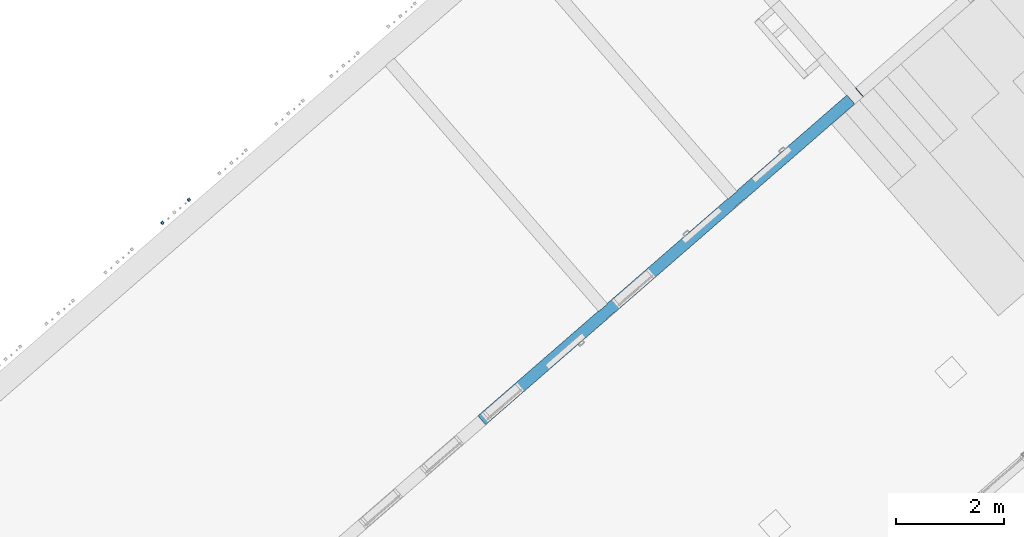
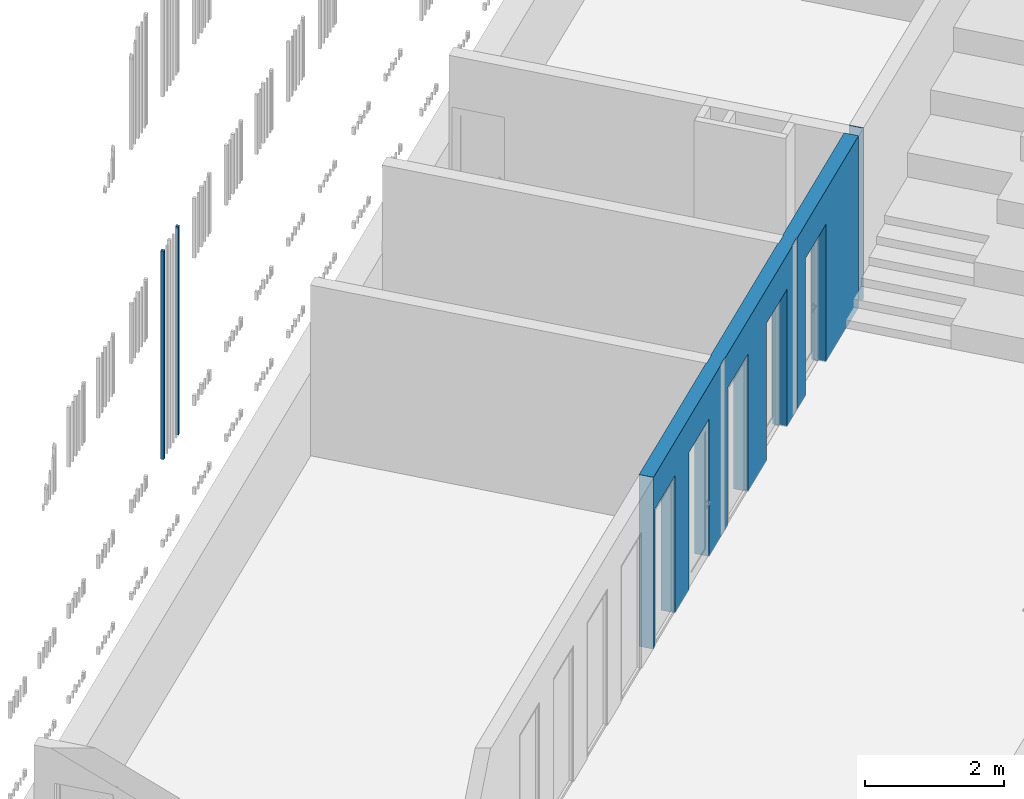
# One storey, part 48 of 124: 3 walls.
"""IFC2X3 building model written with IfcOpenShell, lengths in millimetres."""

from ifc_helpers import new_model, entity, si_unit, converted_unit, derived_unit, money_unit, direction, frame, origin_with_axes, place, context, subcontext, project, spatial, faceted_brep, material, material_list, type_object, element, save


model = new_model("IFC2X3")

# Units and contexts
model_context = context("Model", 3, precision=1e-05, world=origin_with_axes(), true_north=direction((0.0, 1.0)))
body_context = subcontext(model_context, "Body", "Model", "MODEL_VIEW")
ifc_project = project(units=[si_unit("LENGTHUNIT", "METRE", prefix="MILLI"), si_unit("AREAUNIT", "SQUARE_METRE"), si_unit("VOLUMEUNIT", "CUBIC_METRE"), converted_unit("PLANEANGLEUNIT", "DEGREE", entity("IfcPlaneAngleMeasure", 0.0174532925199), si_unit("PLANEANGLEUNIT", "RADIAN"), dimensions=[0, 0, 0, 0, 0, 0, 0]), si_unit("SOLIDANGLEUNIT", "STERADIAN"), money_unit("EUR"), converted_unit("TIMEUNIT", "Year", entity("IfcTimeMeasure", 31556926.0), si_unit("TIMEUNIT", "SECOND"), dimensions=[0, 0, 1, 0, 0, 0, 0]), si_unit("MASSUNIT", "GRAM", prefix="KILO"), si_unit("THERMODYNAMICTEMPERATUREUNIT", "DEGREE_CELSIUS"), si_unit("LUMINOUSINTENSITYUNIT", "LUMEN"), si_unit("ENERGYUNIT", "JOULE", prefix="MEGA"), derived_unit("THERMALCONDUCTANCEUNIT", [(si_unit("POWERUNIT", "WATT"), 1), (si_unit("LENGTHUNIT", "METRE"), -1), (si_unit("THERMODYNAMICTEMPERATUREUNIT", "KELVIN"), -1)]), derived_unit("SPECIFICHEATCAPACITYUNIT", [(si_unit("ENERGYUNIT", "JOULE"), 1), (si_unit("MASSUNIT", "GRAM", prefix="KILO"), -1), (si_unit("THERMODYNAMICTEMPERATUREUNIT", "KELVIN"), -1)]), derived_unit("MASSDENSITYUNIT", [(si_unit("MASSUNIT", "GRAM", prefix="KILO"), 1), (si_unit("VOLUMEUNIT", "CUBIC_METRE"), -1)])], contexts=[model_context])

# Site, building, storey
site_placement = place(None, origin_with_axes())
site = spatial("IfcSite", under=ifc_project, at=site_placement, Name="Site", CompositionType="ELEMENT")
building_placement = place(site_placement, origin_with_axes())
building = spatial("IfcBuilding", under=site, at=building_placement, Name="Building", CompositionType="ELEMENT")
storey_placement = place(building_placement, frame((0.0, 0.0, -1615.0), z_axis=(0.0, 0.0, 1.0), x_axis=(1.0, 0.0, 0.0)))
storey = spatial("IfcBuildingStorey", under=building, at=storey_placement, Name="0  korrus", CompositionType="ELEMENT", Elevation=-1615.0)

# Walls
ifc_material_1 = material(Name="Krohv - Lubjakivi")
ifc_material_2 = material(Name="Raudbetoon - Konstruktsioon")
ifc_material_list = material_list([ifc_material_1, ifc_material_1, ifc_material_1, ifc_material_1, ifc_material_2, ifc_material_2, ifc_material_1, ifc_material_1, ifc_material_1, ifc_material_1])
wall_type_1 = type_object("IfcWallType", Name="SS-10", PredefinedType="NOTDEFINED")
wall_placement = place(storey_placement, frame((156600.150721, 97211.825244, -20.0), z_axis=(0.0, 0.0, 1.0), x_axis=(-0.754709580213, -0.656059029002, 0.0)))
element("IfcWall", 1, at=wall_placement, inside=storey, type_object=wall_type_1, material=ifc_material_list, Name="SS-10", context=body_context, shape_type="Brep", body=[
    faceted_brep([(3.09205099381, -9.99999999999, 3020.0), (3.09209474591, 0.0, 3020.0), (0.0, 0.0, 3020.0), (0.0, -10.0, 3020.0), (3.09205099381, -9.99999999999, 0.0), (3.09209474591, 0.0, 0.0), (0.0, 0.0, 0.0), (0.0, -10.0, 0.0)], [[[0, 1, 2, 3]], [[1, 0, 4, 5]], [[1, 5, 6, 2]], [[7, 3, 2, 6]], [[4, 0, 3, 7]], [[5, 4, 7, 6]]]),
    faceted_brep([(7720.00011706, 0.0, 20.0), (7720.00011706, 0.0, 2420.0), (6820.00011706, 0.0, 2420.0), (6820.00011706, 0.0, 20.0), (6820.00011706, 0.0, 0.0), (6313.09222722, 0.0, 0.0), (6313.09222722, 0.0, 3020.0), (9279.99998528, 0.0, 3020.0), (9279.99998528, 0.0, 0.0), (9220.00011706, 0.0, 0.0), (9220.00011706, 0.0, 20.0), (9220.00011706, 0.0, 2420.0), (8320.00011706, 0.0, 2420.0), (8320.00011706, 0.0, 20.0), (8320.00011706, 0.0, 0.0), (7720.00011706, 0.0, 0.0), (7720.00011706, -10.0, 20.0), (7720.00011706, -9.99999999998, 2420.0), (6820.00011706, -9.99999999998, 2420.0), (6820.00011706, -10.0, 20.0), (6820.00011706, -10.0, 0.0), (6313.09222701, -9.99999999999, 0.0), (6313.09222701, -9.99999999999, 3020.0), (9279.99998528, -10.0, 3020.0), (9279.99998528, -10.0, 0.0), (9220.00011706, -9.99999999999, 0.0), (9220.00011706, -9.99999999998, 20.0), (9220.00011706, -9.99999999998, 2420.0), (8320.00011706, -9.99999999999, 2420.0), (8320.00011706, -9.99999999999, 20.0), (8320.00011706, -9.99999999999, 0.0), (7720.00011706, -9.99999999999, 0.0)], [[[0, 1, 2, 3, 4, 5, 6, 7, 8, 9, 10, 11, 12, 13, 14, 15]], [[1, 0, 16, 17]], [[2, 1, 17, 18]], [[3, 2, 18, 19]], [[3, 19, 20, 4]], [[21, 5, 4, 20]], [[6, 5, 21, 22]], [[7, 6, 22, 23]], [[24, 8, 7, 23]], [[8, 24, 25, 9]], [[10, 9, 25, 26]], [[10, 26, 27, 11]], [[11, 27, 28, 12]], [[12, 28, 29, 13]], [[29, 30, 14, 13]], [[31, 15, 14, 30]], [[16, 0, 15, 31]], [[17, 16, 31, 30, 29, 28, 27, 26, 25, 24, 23, 22, 21, 20, 19, 18]]]),
    faceted_brep([(4279.74517624, 0.0, 20.0), (4279.74517624, 0.0, 2420.0), (3379.74517624, 0.0, 2420.0), (3379.74517624, 0.0, 20.0), (3379.74517624, 0.0, 0.0), (3143.09208998, 0.0, 0.0), (3143.09208998, 0.0, 3020.0), (6113.09222722, 0.0, 3020.0), (6113.09222722, 0.0, 0.0), (6000.00011248, 0.0, 0.0), (6000.00011248, 0.0, 20.0), (6000.00011248, 0.0, 2420.0), (5100.00011248, 0.0, 2420.0), (5100.00011248, 0.0, 20.0), (5100.00011248, 0.0, 0.0), (4279.74517624, 0.0, 0.0), (4279.74517624, -9.99999999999, 20.0), (4279.74517624, -9.99999999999, 2420.0), (3379.74517624, -9.99999999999, 2420.0), (3379.74517624, -9.99999999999, 20.0), (3379.74517624, -9.99999999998, 0.0), (3143.09208999, -9.99999999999, 0.0), (3143.09208999, -9.99999999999, 3020.0), (6113.09222701, -10.0, 3020.0), (6113.09222701, -10.0, 0.0), (6000.00011248, -10.0, 0.0), (6000.00011248, -10.0, 20.0), (6000.00011248, -10.0, 2420.0), (5100.00011248, -10.0, 2420.0), (5100.00011248, -10.0, 20.0), (5100.00011248, -9.99999999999, 0.0), (4279.74517624, -9.99999999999, 0.0)], [[[0, 1, 2, 3, 4, 5, 6, 7, 8, 9, 10, 11, 12, 13, 14, 15]], [[1, 0, 16, 17]], [[2, 1, 17, 18]], [[3, 2, 18, 19]], [[3, 19, 20, 4]], [[21, 5, 4, 20]], [[6, 5, 21, 22]], [[6, 22, 23, 7]], [[24, 8, 7, 23]], [[8, 24, 25, 9]], [[10, 9, 25, 26]], [[10, 26, 27, 11]], [[11, 27, 28, 12]], [[12, 28, 29, 13]], [[29, 30, 14, 13]], [[31, 15, 14, 30]], [[16, 0, 15, 31]], [[17, 16, 31, 30, 29, 28, 27, 26, 25, 24, 23, 22, 21, 20, 19, 18]]]),
    faceted_brep([(2560.09818998, 0.0, 20.0), (2560.09818998, 0.0, 2420.0), (1660.09818998, 0.0, 2420.0), (1660.09818998, 0.0, 20.0), (1660.09818998, 0.0, 0.0), (223.092094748, 0.0, 0.0), (223.092094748, 0.0, 3020.0), (2923.09208998, 0.0, 3020.0), (2923.09208998, 0.0, 0.0), (2560.09818998, 0.0, 0.0), (2560.09818998, -9.99999999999, 20.0), (2560.09818998, -9.99999999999, 2420.0), (1660.09818998, -9.99999999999, 2420.0), (1660.09818998, -9.99999999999, 20.0), (1660.09818998, -10.0, 0.0), (223.092050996, -9.99999999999, 0.0), (223.092050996, -9.99999999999, 3020.0), (2923.09208999, -10.0, 3020.0), (2923.09208999, -10.0, 0.0), (2560.09818998, -9.99999999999, 0.0)], [[[0, 1, 2, 3, 4, 5, 6, 7, 8, 9]], [[1, 0, 10, 11]], [[2, 1, 11, 12]], [[3, 2, 12, 13]], [[3, 13, 14, 4]], [[14, 15, 5, 4]], [[16, 6, 5, 15]], [[7, 6, 16, 17]], [[17, 18, 8, 7]], [[9, 8, 18, 19]], [[10, 0, 9, 19]], [[11, 10, 19, 18, 17, 16, 15, 14, 13, 12]]]),
    faceted_brep([(13.0911759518, -210.0, 3020.0), (13.0920509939, -9.99999999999, 3020.0), (0.0, -10.0, 3020.0), (0.0, -210.0, 3020.0), (13.0911759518, -210.0, 0.0), (13.0920509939, -9.99999999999, 0.0), (0.0, -10.0, 0.0), (0.0, -210.0, 0.0)], [[[0, 1, 2, 3]], [[1, 0, 4, 5]], [[1, 5, 6, 2]], [[7, 3, 2, 6]], [[4, 0, 3, 7]], [[5, 4, 7, 6]]]),
    faceted_brep([(7720.00011706, -10.0, 20.0), (7720.00011706, -10.0, 2420.0), (6820.00011706, -10.0, 2420.0), (6820.00011706, -10.0, 20.0), (6820.00011706, -9.99999999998, 0.0), (6000.00011248, -10.0, 0.0), (6000.00011248, -10.0, 20.0), (6000.00011248, -9.99999999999, 2420.0), (5100.00011248, -9.99999999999, 2420.0), (5100.00011248, -9.99999999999, 20.0), (5100.00011248, -9.99999999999, 0.0), (4279.74517624, -9.99999999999, 0.0), (4279.74517624, -9.99999999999, 20.0), (4279.74517624, -9.99999999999, 2420.0), (3379.74517624, -9.99999999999, 2420.0), (3379.74517624, -9.99999999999, 20.0), (3379.74517624, -9.99999999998, 0.0), (2560.09818998, -9.99999999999, 0.0), (2560.09818998, -9.99999999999, 20.0), (2560.09818998, -9.99999999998, 2420.0), (1660.09818998, -9.99999999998, 2420.0), (1660.09818998, -9.99999999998, 20.0), (1660.09818998, -9.99999999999, 0.0), (213.092050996, -9.99999999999, 0.0), (213.092050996, -9.99999999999, 3020.0), (9279.99998528, -10.0, 3020.0), (9279.99998528, -10.0, 0.0), (9220.00011706, -9.99999999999, 0.0), (9220.00011706, -9.99999999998, 20.0), (9220.00011706, -10.0, 2420.0), (8320.00011706, -10.0, 2420.0), (8320.00011706, -9.99999999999, 20.0), (8320.00011706, -9.99999999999, 0.0), (7720.00011706, -9.99999999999, 0.0), (7720.00011706, -110.0, 20.0), (7720.00011706, -210.0, 20.0), (7720.00011706, -210.0, 2420.0), (6820.00011706, -210.0, 2420.0), (6820.00011706, -110.0, 20.0), (6820.00011706, -210.0, 20.0), (6820.00011706, -210.0, 0.0), (6000.00011248, -210.0, 0.0), (6000.00011248, -210.0, 20.0), (6000.00011248, -210.0, 2420.0), (5100.00011248, -210.0, 2420.0), (5100.00011248, -210.0, 20.0), (5100.00011248, -210.0, 0.0), (4279.74517624, -210.0, 0.0), (4279.74517624, -210.0, 20.0), (4279.74517624, -210.0, 2420.0), (3379.74517624, -210.0, 2420.0), (3379.74517624, -210.0, 20.0), (3379.74517624, -210.0, 0.0), (2560.09818998, -210.0, 0.0), (2560.09818998, -210.0, 20.0), (2560.09818998, -210.0, 2420.0), (1660.09818998, -210.0, 2420.0), (1660.09818998, -210.0, 20.0), (1660.09818998, -210.0, 0.0), (213.091175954, -210.0, 0.0), (213.091175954, -210.0, 3020.0), (9279.99998528, -210.0, 3020.0), (9279.99998528, -210.0, 0.0), (9220.00011706, -210.0, 0.0), (9220.00011706, -210.0, 20.0), (9220.00011706, -210.0, 2420.0), (8320.00011706, -210.0, 2420.0), (8320.00011706, -210.0, 20.0), (8320.00011706, -210.0, 0.0), (7720.00011706, -210.0, 0.0)], [[[0, 1, 2, 3, 4, 5, 6, 7, 8, 9, 10, 11, 12, 13, 14, 15, 16, 17, 18, 19, 20, 21, 22, 23, 24, 25, 26, 27, 28, 29, 30, 31, 32, 33]], [[1, 0, 34, 35, 36]], [[2, 1, 36, 37]], [[38, 3, 2, 37, 39]], [[3, 38, 39, 40, 4]], [[5, 4, 40, 41]], [[5, 41, 42, 6]], [[42, 43, 7, 6]], [[43, 44, 8, 7]], [[44, 45, 9, 8]], [[46, 10, 9, 45]], [[11, 10, 46, 47]], [[11, 47, 48, 12]], [[13, 12, 48, 49]], [[50, 14, 13, 49]], [[15, 14, 50, 51]], [[16, 15, 51, 52]], [[17, 16, 52, 53]], [[54, 18, 17, 53]], [[19, 18, 54, 55]], [[20, 19, 55, 56]], [[21, 20, 56, 57]], [[21, 57, 58, 22]], [[23, 22, 58, 59]], [[23, 59, 60, 24]], [[24, 60, 61, 25]], [[26, 25, 61, 62]], [[62, 63, 27, 26]], [[28, 27, 63, 64]], [[28, 64, 65, 29]], [[29, 65, 66, 30]], [[30, 66, 67, 31]], [[67, 68, 32, 31]], [[33, 32, 68, 69]], [[34, 0, 33, 69, 35]], [[40, 39, 37, 36, 35, 69, 68, 67, 66, 65, 64, 63, 62, 61, 60, 59, 58, 57, 56, 55, 54, 53, 52, 51, 50, 49, 48, 47, 46, 45, 44, 43, 42, 41]]]),
    faceted_brep([(3.09113219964, -220.0, 3020.0), (3.09117595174, -210.0, 3020.0), (0.0, -210.0, 3020.0), (0.0, -220.0, 3020.0), (3.09113219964, -220.0, 0.0), (3.09117595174, -210.0, 0.0), (0.0, -210.0, 0.0), (0.0, -220.0, 0.0)], [[[0, 1, 2, 3]], [[1, 0, 4, 5]], [[1, 5, 6, 2]], [[7, 3, 2, 6]], [[4, 0, 3, 7]], [[5, 4, 7, 6]]]),
    faceted_brep([(7720.00011706, -210.0, 20.0), (7720.00011706, -210.0, 2420.0), (6820.00011706, -210.0, 2420.0), (6820.00011706, -210.0, 20.0), (6820.00011706, -210.0, 0.0), (6313.09222292, -210.0, 0.0), (6313.09222292, -210.0, 3020.0), (9279.99998528, -210.0, 3020.0), (9279.99998528, -210.0, 0.0), (9220.00011706, -210.0, 0.0), (9220.00011706, -210.0, 20.0), (9220.00011706, -210.0, 2420.0), (8320.00011706, -210.0, 2420.0), (8320.00011706, -210.0, 20.0), (8320.00011706, -210.0, 0.0), (7720.00011706, -210.0, 0.0), (7720.00011706, -220.0, 20.0), (7720.00011706, -220.0, 2420.0), (6820.00011706, -220.0, 2420.0), (6820.00011706, -220.0, 20.0), (6820.00011706, -220.0, 0.0), (6313.09222271, -220.0, 0.0), (6313.09222271, -220.0, 3020.0), (9279.99998528, -220.0, 3020.0), (9279.99998528, -220.0, 0.0), (9220.00011706, -220.0, 0.0), (9220.00011706, -220.0, 20.0), (9220.00011706, -220.0, 2420.0), (8320.00011706, -220.0, 2420.0), (8320.00011706, -220.0, 20.0), (8320.00011706, -220.0, 0.0), (7720.00011706, -220.0, 0.0)], [[[0, 1, 2, 3, 4, 5, 6, 7, 8, 9, 10, 11, 12, 13, 14, 15]], [[1, 0, 16, 17]], [[2, 1, 17, 18]], [[3, 2, 18, 19]], [[3, 19, 20, 4]], [[21, 5, 4, 20]], [[6, 5, 21, 22]], [[7, 6, 22, 23]], [[24, 8, 7, 23]], [[8, 24, 25, 9]], [[10, 9, 25, 26]], [[10, 26, 27, 11]], [[11, 27, 28, 12]], [[12, 28, 29, 13]], [[29, 30, 14, 13]], [[31, 15, 14, 30]], [[16, 0, 15, 31]], [[17, 16, 31, 30, 29, 28, 27, 26, 25, 24, 23, 22, 21, 20, 19, 18]]]),
    faceted_brep([(4279.74517624, -210.0, 20.0), (4279.74517624, -210.0, 2420.0), (3379.74517624, -210.0, 2420.0), (3379.74517624, -210.0, 20.0), (3379.74517624, -210.0, 0.0), (3143.09209005, -210.0, 0.0), (3143.09209005, -210.0, 3020.0), (6113.09222292, -210.0, 3020.0), (6113.09222292, -210.0, 0.0), (6000.00011248, -210.0, 0.0), (6000.00011248, -210.0, 20.0), (6000.00011248, -210.0, 2420.0), (5100.00011248, -210.0, 2420.0), (5100.00011248, -210.0, 20.0), (5100.00011248, -210.0, 0.0), (4279.74517624, -210.0, 0.0), (4279.74517624, -220.0, 20.0), (4279.74517624, -220.0, 2420.0), (3379.74517624, -220.0, 2420.0), (3379.74517624, -220.0, 20.0), (3379.74517624, -220.0, 0.0), (3143.09209006, -220.0, 0.0), (3143.09209006, -220.0, 3020.0), (6113.09222271, -220.0, 3020.0), (6113.09222271, -220.0, 0.0), (6000.00011248, -220.0, 0.0), (6000.00011248, -220.0, 20.0), (6000.00011248, -220.0, 2420.0), (5100.00011248, -220.0, 2420.0), (5100.00011248, -220.0, 20.0), (5100.00011248, -220.0, 0.0), (4279.74517624, -220.0, 0.0)], [[[0, 1, 2, 3, 4, 5, 6, 7, 8, 9, 10, 11, 12, 13, 14, 15]], [[1, 0, 16, 17]], [[2, 1, 17, 18]], [[3, 2, 18, 19]], [[3, 19, 20, 4]], [[21, 5, 4, 20]], [[6, 5, 21, 22]], [[6, 22, 23, 7]], [[24, 8, 7, 23]], [[8, 24, 25, 9]], [[10, 9, 25, 26]], [[10, 26, 27, 11]], [[11, 27, 28, 12]], [[12, 28, 29, 13]], [[29, 30, 14, 13]], [[31, 15, 14, 30]], [[16, 0, 15, 31]], [[17, 16, 31, 30, 29, 28, 27, 26, 25, 24, 23, 22, 21, 20, 19, 18]]]),
    faceted_brep([(2560.09818998, -210.0, 20.0), (2560.09818998, -210.0, 2420.0), (1660.09818998, -210.0, 2420.0), (1660.09818998, -210.0, 20.0), (1660.09818998, -210.0, 0.0), (223.091175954, -210.0, 0.0), (223.091175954, -210.0, 3020.0), (2923.09209005, -210.0, 3020.0), (2923.09209005, -210.0, 0.0), (2560.09818998, -210.0, 0.0), (2560.09818998, -220.0, 20.0), (2560.09818998, -220.0, 2420.0), (1660.09818998, -220.0, 2420.0), (1660.09818998, -220.0, 20.0), (1660.09818998, -220.0, 0.0), (223.091132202, -220.0, 0.0), (223.091132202, -220.0, 3020.0), (2923.09209006, -220.0, 3020.0), (2923.09209006, -220.0, 0.0), (2560.09818998, -220.0, 0.0)], [[[0, 1, 2, 3, 4, 5, 6, 7, 8, 9]], [[1, 0, 10, 11]], [[2, 1, 11, 12]], [[3, 2, 12, 13]], [[3, 13, 14, 4]], [[14, 15, 5, 4]], [[16, 6, 5, 15]], [[7, 6, 16, 17]], [[17, 18, 8, 7]], [[9, 8, 18, 19]], [[10, 0, 9, 19]], [[11, 10, 19, 18, 17, 16, 15, 14, 13, 12]]]),
])
ifc_material_3 = material(Name="Site specified")
wall_type_2 = type_object("IfcWallType", Name="Puitfassaadi ribistik", PredefinedType="NOTDEFINED")
for number, where, z_axis, x_axis, name in (
    (2, (144092.279103, 95293.923034, 3159.2860688), (0.0, 0.0, 1.0), (0.754709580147, 0.656059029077, 0.0), "Site specified"),
    (3, (143601.713626, 94867.4809707, 3159.2860688), (0.0, 0.0, 1.0), (0.754709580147, 0.656059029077, 0.0), "Site specified"),
):
    element("IfcWall", number, at=place(storey_placement, frame(where, z_axis=z_axis, x_axis=x_axis)), inside=storey, type_object=wall_type_2, material=ifc_material_3, Name=name, context=body_context, shape_type="Brep", body=[
        faceted_brep([(25.0, 25.0, 3661.7139312), (25.0, 25.0, 0.0), (-25.0, 25.0, 0.0), (-25.0, 25.0, 3661.7139312), (25.0, -25.0, 3661.7139312), (25.0, -25.0, 0.0), (-25.0, -25.0, 0.0), (-25.0, -25.0, 3661.7139312)], [[[0, 1, 2, 3]], [[4, 5, 1, 0]], [[2, 1, 5, 6]], [[3, 2, 6, 7]], [[4, 0, 3, 7]], [[7, 6, 5, 4]]]),
    ])

save(model, "model.ifc")
